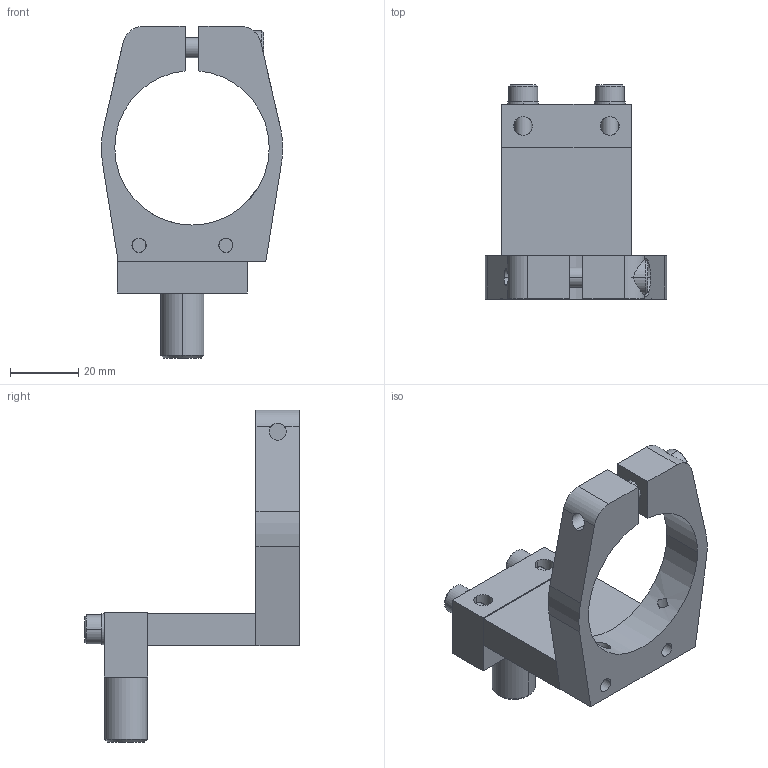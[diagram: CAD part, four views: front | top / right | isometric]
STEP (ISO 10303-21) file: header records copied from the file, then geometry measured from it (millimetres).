
FILE_DESCRIPTION (( 'STEP AP214' ), '1' );
FILE_NAME ('RTI-PNM-50-SPT20-125.STEP', '2013-10-22T14:39:26', ( 'user' ), ( '' ), 'SwSTEP 2.0', 'SolidWorks 2009', '' );
FILE_SCHEMA (( 'AUTOMOTIVE_DESIGN' ));
Length unit declared in the file: inch
Products named in the file (9): RTI-PMB-50; RTI-SM-SP-125; RTI-NM-SPT20; RTI-NM-45-B; M6 WASHER; M6 S.H.C.S._M6x30mm; M5 WASHER; M5 S.H.C.S._M5x55mm; RTI-PNM-50-SPT20-125
Assembly tree (10 placements, depth 3):
  RTI-PNM-50-SPT20-125
    M5 S.H.C.S._M5x55mm  x2
    M5 WASHER  x2
    RTI-SM-SP-125
    RTI-PMB-50
    RTI-NM-SPT20
      M6 WASHER
      RTI-NM-45-B
      M6 S.H.C.S._M6x30mm
Bounding box: 53.18 x 62.9 x 97.31 mm (x, y, z)
Volume: 41973.6 mm3; surface area: 22108 mm2
Topology: 9 solids, 9 shells, 1005 faces, 2599 edges, 1728 vertices
Faces by surface type: plane 620, bspline 302, cylinder 68, cone 15
Entity records: 60490 total; most frequent: CARTESIAN_POINT 27201, ORIENTED_EDGE 5098, DIRECTION 3418, EDGE_CURVE 2549, VECTOR 1800, LINE 1800, VERTEX_POINT 1696, EDGE_LOOP 1127
